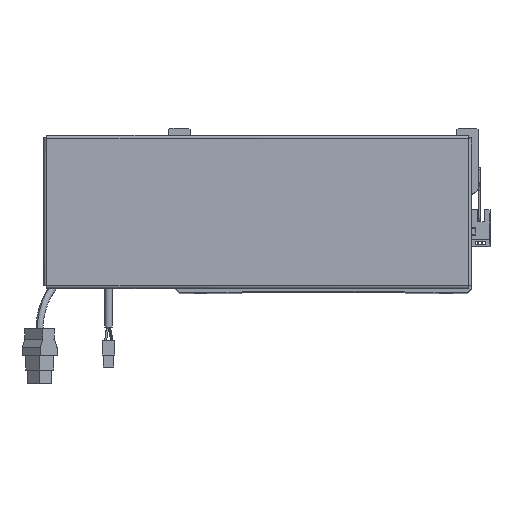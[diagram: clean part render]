
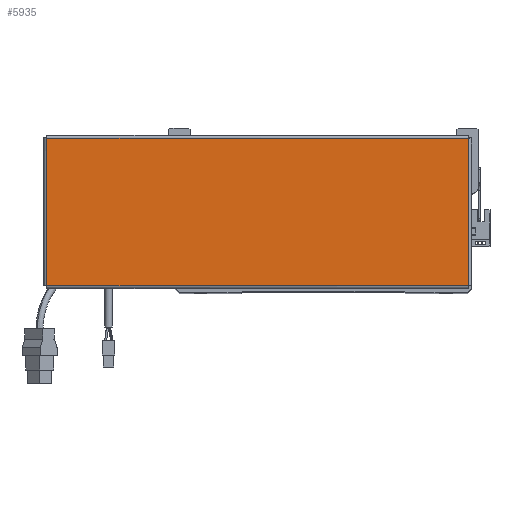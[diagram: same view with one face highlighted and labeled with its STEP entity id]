
A CAD part, top view. The second image highlights one B-rep face of the part: STEP entity #5935.
In plain terms, the highlighted planar face has unit normal (0, 0, 1).
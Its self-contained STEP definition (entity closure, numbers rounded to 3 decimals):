
#58 = CARTESIAN_POINT ( 'NONE',  ( 156.513, -54.793, 0. ) ) ;
#493 = DIRECTION ( 'NONE',  ( -1., 0., 0. ) ) ;
#4571 = VECTOR ( 'NONE', #14922, 1000. ) ;
#5935 = ADVANCED_FACE ( 'NONE', ( #9501 ), #11563, .T. ) ;
#7017 = LINE ( 'NONE', #24588, #53145 ) ;
#8521 = VECTOR ( 'NONE', #493, 1000. ) ;
#9501 = FACE_OUTER_BOUND ( 'NONE', #16941, .T. ) ;
#9613 = LINE ( 'NONE', #57542, #32374 ) ;
#11563 = PLANE ( 'NONE',  #46124 ) ;
#12710 = DIRECTION ( 'NONE',  ( 1., 0., 0. ) ) ;
#14922 = DIRECTION ( 'NONE',  ( 0., 1., 0. ) ) ;
#15002 = ORIENTED_EDGE ( 'NONE', *, *, #63904, .T. ) ;
#16941 = EDGE_LOOP ( 'NONE', ( #52253, #59629, #15002, #31764 ) ) ;
#18617 = CARTESIAN_POINT ( 'NONE',  ( -156.513, -54.763, 0. ) ) ;
#18725 = LINE ( 'NONE', #45316, #8521 ) ;
#20004 = CARTESIAN_POINT ( 'NONE',  ( 156.513, 54.763, 0. ) ) ;
#24588 = CARTESIAN_POINT ( 'NONE',  ( -156.513, 54.793, 0. ) ) ;
#26291 = EDGE_CURVE ( 'NONE', #43019, #55876, #9613, .T. ) ;
#26491 = DIRECTION ( 'NONE',  ( 1., 0., 0. ) ) ;
#26524 = LINE ( 'NONE', #58, #4571 ) ;
#29659 = DIRECTION ( 'NONE',  ( 0., -1., 0. ) ) ;
#31764 = ORIENTED_EDGE ( 'NONE', *, *, #34664, .T. ) ;
#32374 = VECTOR ( 'NONE', #12710, 1000. ) ;
#34636 = VERTEX_POINT ( 'NONE', #20004 ) ;
#34664 = EDGE_CURVE ( 'NONE', #40623, #43019, #7017, .T. ) ;
#40623 = VERTEX_POINT ( 'NONE', #42993 ) ;
#42993 = CARTESIAN_POINT ( 'NONE',  ( -156.513, 54.763, 0. ) ) ;
#43019 = VERTEX_POINT ( 'NONE', #18617 ) ;
#45316 = CARTESIAN_POINT ( 'NONE',  ( 156.543, 54.763, 0. ) ) ;
#45364 = EDGE_CURVE ( 'NONE', #55876, #34636, #26524, .T. ) ;
#46124 = AXIS2_PLACEMENT_3D ( 'NONE', #57045, #52211, #26491 ) ;
#52211 = DIRECTION ( 'NONE',  ( 0., 0., 1. ) ) ;
#52253 = ORIENTED_EDGE ( 'NONE', *, *, #26291, .T. ) ;
#53145 = VECTOR ( 'NONE', #29659, 1000. ) ;
#53353 = CARTESIAN_POINT ( 'NONE',  ( 156.513, -54.763, 0. ) ) ;
#55876 = VERTEX_POINT ( 'NONE', #53353 ) ;
#57045 = CARTESIAN_POINT ( 'NONE',  ( 0., 0., 0. ) ) ;
#57542 = CARTESIAN_POINT ( 'NONE',  ( -156.543, -54.763, 0. ) ) ;
#59629 = ORIENTED_EDGE ( 'NONE', *, *, #45364, .T. ) ;
#63904 = EDGE_CURVE ( 'NONE', #34636, #40623, #18725, .T. ) ;
